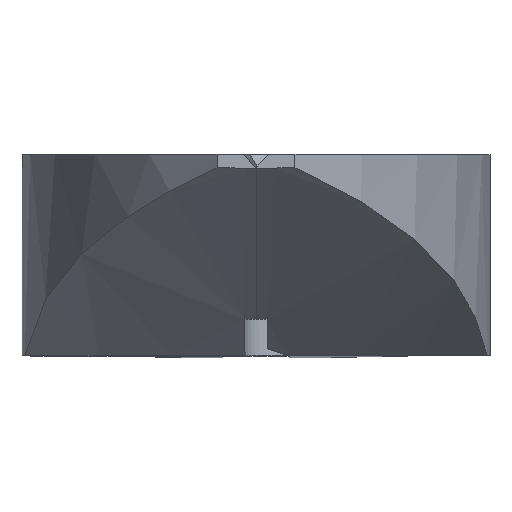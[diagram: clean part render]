
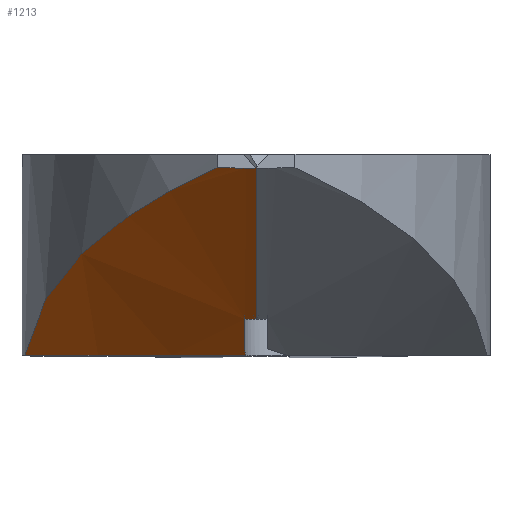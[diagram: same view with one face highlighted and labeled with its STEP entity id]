
A CAD part, top view. The second image highlights one B-rep face of the part: STEP entity #1213.
In plain terms, the highlighted cylindrical face has radius 55 mm (diameter 110 mm), a partial arc.
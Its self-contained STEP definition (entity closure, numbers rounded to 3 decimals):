
#81=FACE_OUTER_BOUND('',#154,.T.);
#154=EDGE_LOOP('',(#885,#886,#887,#888,#889,#890,#891));
#266=ELLIPSE('',#1272,2.299,1.982);
#271=ELLIPSE('',#1303,63.509,55.);
#272=ELLIPSE('',#1309,110.,55.);
#273=ELLIPSE('',#1310,63.509,55.);
#310=LINE('',#1991,#407);
#320=LINE('',#2013,#417);
#407=VECTOR('',#1498,10.);
#417=VECTOR('',#1520,10.);
#491=B_SPLINE_CURVE_WITH_KNOTS('',3,(#2016,#2017,#2018,#2019,#2020,#2021,
#2022,#2023,#2024,#2025),.UNSPECIFIED.,.F.,.F.,(4,2,2,2,4),(1.871,
2.328,3.073,3.818,3.897),
 .UNSPECIFIED.);
#502=VERTEX_POINT('',#1818);
#503=VERTEX_POINT('',#1820);
#540=VERTEX_POINT('',#1987);
#542=VERTEX_POINT('',#1990);
#545=VERTEX_POINT('',#1999);
#548=VERTEX_POINT('',#2011);
#549=VERTEX_POINT('',#2015);
#621=EDGE_CURVE('',#502,#503,#266,.T.);
#668=EDGE_CURVE('',#542,#540,#310,.T.);
#674=EDGE_CURVE('',#545,#540,#271,.T.);
#680=EDGE_CURVE('',#548,#502,#320,.T.);
#681=EDGE_CURVE('',#549,#545,#491,.T.);
#682=EDGE_CURVE('',#503,#549,#272,.T.);
#683=EDGE_CURVE('',#542,#548,#273,.T.);
#885=ORIENTED_EDGE('',*,*,#674,.F.);
#886=ORIENTED_EDGE('',*,*,#681,.F.);
#887=ORIENTED_EDGE('',*,*,#682,.F.);
#888=ORIENTED_EDGE('',*,*,#621,.F.);
#889=ORIENTED_EDGE('',*,*,#680,.F.);
#890=ORIENTED_EDGE('',*,*,#683,.F.);
#891=ORIENTED_EDGE('',*,*,#668,.T.);
#1173=CYLINDRICAL_SURFACE('',#1308,55.);
#1213=ADVANCED_FACE('',(#81),#1173,.T.);
#1272=AXIS2_PLACEMENT_3D('',#1821,#1418,#1419);
#1303=AXIS2_PLACEMENT_3D('',#2001,#1506,#1507);
#1308=AXIS2_PLACEMENT_3D('',#2014,#1521,#1522);
#1309=AXIS2_PLACEMENT_3D('',#2026,#1523,#1524);
#1310=AXIS2_PLACEMENT_3D('',#2027,#1525,#1526);
#1418=DIRECTION('center_axis',(-0.008,-0.866,
0.5));
#1419=DIRECTION('ref_axis',(0.017,-0.5,-0.866));
#1498=DIRECTION('',(0.,0.5,0.866));
#1506=DIRECTION('center_axis',(0.,0.,1.));
#1507=DIRECTION('ref_axis',(0.,1.,0.));
#1520=DIRECTION('',(0.,-0.5,-0.866));
#1521=DIRECTION('center_axis',(0.,0.5,0.866));
#1522=DIRECTION('ref_axis',(0.189,0.85,-0.491));
#1523=DIRECTION('center_axis',(0.,-1.,0.));
#1524=DIRECTION('ref_axis',(0.,0.,-1.));
#1525=DIRECTION('center_axis',(0.,0.,-1.));
#1526=DIRECTION('ref_axis',(0.,1.,0.));
#1818=CARTESIAN_POINT('',(-0.5,0.241,26.413));
#1820=CARTESIAN_POINT('',(-0.456,0.,25.996));
#1821=CARTESIAN_POINT('Origin',(1.482,0.221,26.412));
#1987=CARTESIAN_POINT('',(0.,8.372,40.5));
#1990=CARTESIAN_POINT('',(0.,1.617,28.8));
#1991=CARTESIAN_POINT('',(0.,5.917,36.249));
#1999=CARTESIAN_POINT('',(-1.75,8.404,40.5));
#2001=CARTESIAN_POINT('Origin',(0.,71.88,40.5));
#2011=CARTESIAN_POINT('',(-0.5,1.619,28.8));
#2013=CARTESIAN_POINT('',(-0.5,1.752,29.03));
#2014=CARTESIAN_POINT('Origin',(0.,49.381,1.531));
#2015=CARTESIAN_POINT('',(-10.372,0.,24.026));
#2016=CARTESIAN_POINT('Ctrl Pts',(-10.372,0.,
24.026));
#2017=CARTESIAN_POINT('Ctrl Pts',(-10.235,0.749,25.376));
#2018=CARTESIAN_POINT('Ctrl Pts',(-9.985,1.482,26.741));
#2019=CARTESIAN_POINT('Ctrl Pts',(-9.012,3.337,30.3));
#2020=CARTESIAN_POINT('Ctrl Pts',(-8.087,4.412,32.474));
#2021=CARTESIAN_POINT('Ctrl Pts',(-5.63,6.387,36.514));
#2022=CARTESIAN_POINT('Ctrl Pts',(-4.094,7.293,38.384));
#2023=CARTESIAN_POINT('Ctrl Pts',(-2.133,8.227,40.167));
#2024=CARTESIAN_POINT('Ctrl Pts',(-1.943,8.316,40.335));
#2025=CARTESIAN_POINT('Ctrl Pts',(-1.75,8.404,40.5));
#2026=CARTESIAN_POINT('Origin',(0.,0.,
-84.));
#2027=CARTESIAN_POINT('Origin',(0.,65.125,28.8));
